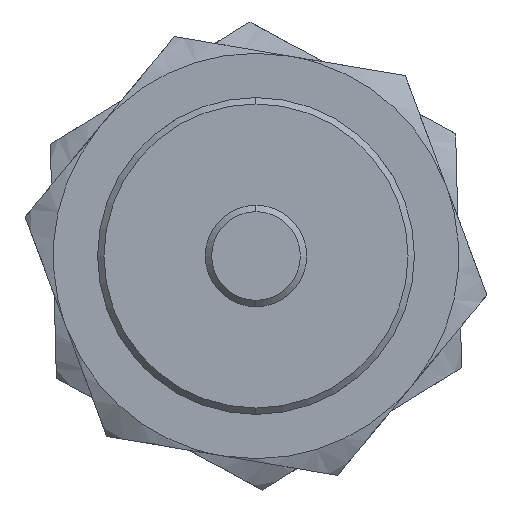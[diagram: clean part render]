
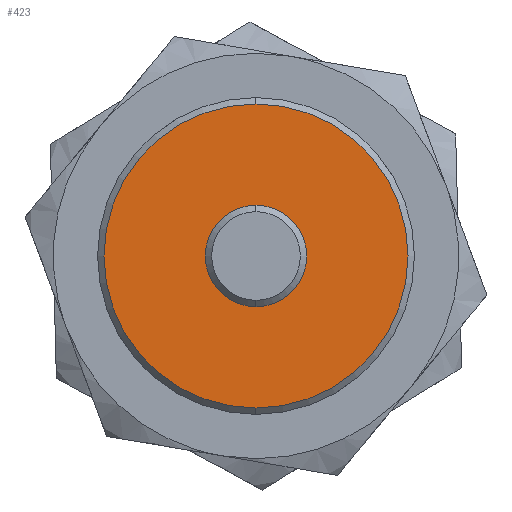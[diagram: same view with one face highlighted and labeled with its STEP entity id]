
A CAD part, left-side view. The second image highlights one B-rep face of the part: STEP entity #423.
In plain terms, the highlighted planar face has unit normal (-1, 0, 0).
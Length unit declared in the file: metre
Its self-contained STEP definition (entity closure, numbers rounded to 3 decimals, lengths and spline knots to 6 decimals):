
#14 = AXIS2_PLACEMENT_3D ( 'NONE', #829, #74, #964 ) ;
#47 = EDGE_CURVE ( 'NONE', #1202, #292, #742, .T. ) ;
#74 = DIRECTION ( 'NONE',  ( 1., 0., 0. ) ) ;
#96 = CARTESIAN_POINT ( 'NONE',  ( 0.03, 0., -0.012 ) ) ;
#165 = CARTESIAN_POINT ( 'NONE',  ( 0.03, 0., 0.012 ) ) ;
#166 = EDGE_LOOP ( 'NONE', ( #1525, #584 ) ) ;
#222 = CIRCLE ( 'NONE', #488, 0.012 ) ;
#292 = VERTEX_POINT ( 'NONE', #472 ) ;
#293 = VERTEX_POINT ( 'NONE', #96 ) ;
#319 = DIRECTION ( 'NONE',  ( 1., 0., 0. ) ) ;
#360 = CARTESIAN_POINT ( 'NONE',  ( 0.03, -0.012144, 0.012144 ) ) ;
#372 = DIRECTION ( 'NONE',  ( 1., 0., 0. ) ) ;
#423 = ADVANCED_FACE ( 'NONE', ( #1234, #1639 ), #1150, .F. ) ;
#472 = CARTESIAN_POINT ( 'NONE',  ( 0.03, 0., -0.004 ) ) ;
#488 = AXIS2_PLACEMENT_3D ( 'NONE', #1093, #319, #1229 ) ;
#509 = AXIS2_PLACEMENT_3D ( 'NONE', #733, #1664, #854 ) ;
#584 = ORIENTED_EDGE ( 'NONE', *, *, #1456, .T. ) ;
#652 = VERTEX_POINT ( 'NONE', #165 ) ;
#733 = CARTESIAN_POINT ( 'NONE',  ( 0.03, 0., 0. ) ) ;
#742 = CIRCLE ( 'NONE', #775, 0.004 ) ;
#775 = AXIS2_PLACEMENT_3D ( 'NONE', #1546, #1615, #1654 ) ;
#829 = CARTESIAN_POINT ( 'NONE',  ( 0.03, 0., 0. ) ) ;
#854 = DIRECTION ( 'NONE',  ( 0., 0., -1. ) ) ;
#872 = CIRCLE ( 'NONE', #509, 0.012 ) ;
#900 = CARTESIAN_POINT ( 'NONE',  ( 0.03, 0., 0.004 ) ) ;
#955 = CIRCLE ( 'NONE', #14, 0.004 ) ;
#964 = DIRECTION ( 'NONE',  ( 0., 0., 1. ) ) ;
#1093 = CARTESIAN_POINT ( 'NONE',  ( 0.03, 0., 0. ) ) ;
#1143 = EDGE_LOOP ( 'NONE', ( #1557, #1167 ) ) ;
#1150 = PLANE ( 'NONE',  #1407 ) ;
#1167 = ORIENTED_EDGE ( 'NONE', *, *, #1504, .F. ) ;
#1202 = VERTEX_POINT ( 'NONE', #900 ) ;
#1229 = DIRECTION ( 'NONE',  ( 0., 0., -1. ) ) ;
#1234 = FACE_BOUND ( 'NONE', #166, .T. ) ;
#1265 = EDGE_CURVE ( 'NONE', #293, #652, #222, .T. ) ;
#1295 = DIRECTION ( 'NONE',  ( 0., 0., -1. ) ) ;
#1407 = AXIS2_PLACEMENT_3D ( 'NONE', #360, #372, #1295 ) ;
#1456 = EDGE_CURVE ( 'NONE', #292, #1202, #955, .T. ) ;
#1504 = EDGE_CURVE ( 'NONE', #652, #293, #872, .T. ) ;
#1525 = ORIENTED_EDGE ( 'NONE', *, *, #47, .T. ) ;
#1546 = CARTESIAN_POINT ( 'NONE',  ( 0.03, 0., 0. ) ) ;
#1557 = ORIENTED_EDGE ( 'NONE', *, *, #1265, .F. ) ;
#1615 = DIRECTION ( 'NONE',  ( 1., 0., 0. ) ) ;
#1639 = FACE_OUTER_BOUND ( 'NONE', #1143, .T. ) ;
#1654 = DIRECTION ( 'NONE',  ( 0., 0., 1. ) ) ;
#1664 = DIRECTION ( 'NONE',  ( 1., 0., 0. ) ) ;
